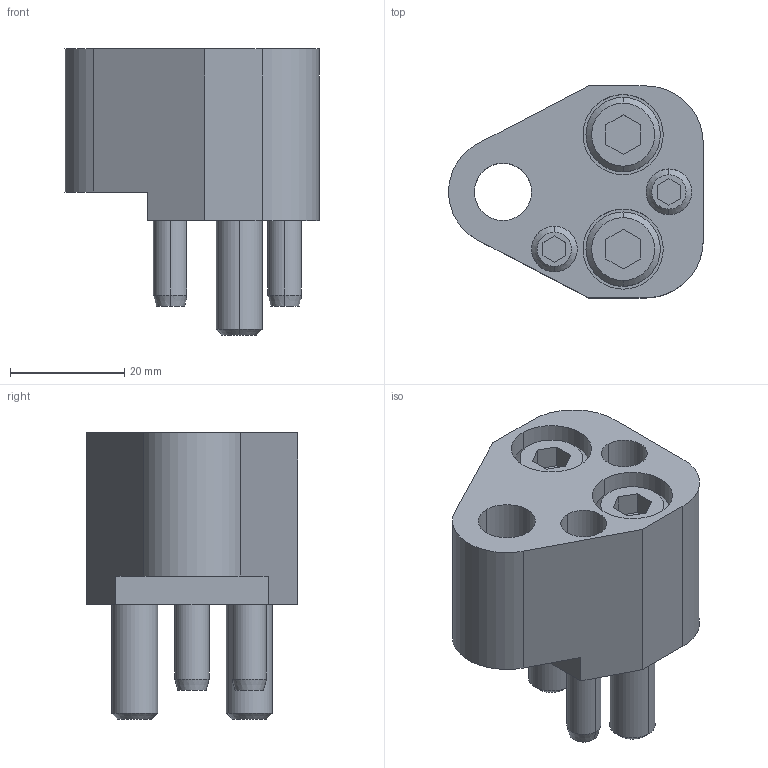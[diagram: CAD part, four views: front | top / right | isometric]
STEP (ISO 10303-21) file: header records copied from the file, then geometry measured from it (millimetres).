
FILE_DESCRIPTION(/* description */ (''),/* implementation_level */ '2;1');
FILE_NAME(/* name */ '3d_cpfr10_02858_r00.stp',/* time_stamp */ '2011-01-10T14:16:26+09:00',/* author */ ('MISUMI'),/* organization */ (''),/* preprocessor_version */ 'ST-DEVELOPER v11',/* originating_system */ 'UGS - NX 5.0',/* authorisation */ '');
FILE_SCHEMA (('CONFIG_CONTROL_DESIGN'));
Length unit declared in the file: millimetre
Products named in the file (1): 3d_cpfr10_02858_r00
Bounding box: 44.47 x 37 x 50 mm (x, y, z)
Volume: 35016.2 mm3; surface area: 15440.3 mm2
Topology: 7 solids, 7 shells, 134 faces, 296 edges, 189 vertices
Faces by surface type: plane 61, cylinder 47, cone 26
Entity records: 3838 total; most frequent: DIRECTION 682, CARTESIAN_POINT 673, ORIENTED_EDGE 592, EDGE_CURVE 296, AXIS2_PLACEMENT_3D 256, VERTEX_POINT 189, LINE 170, VECTOR 170
